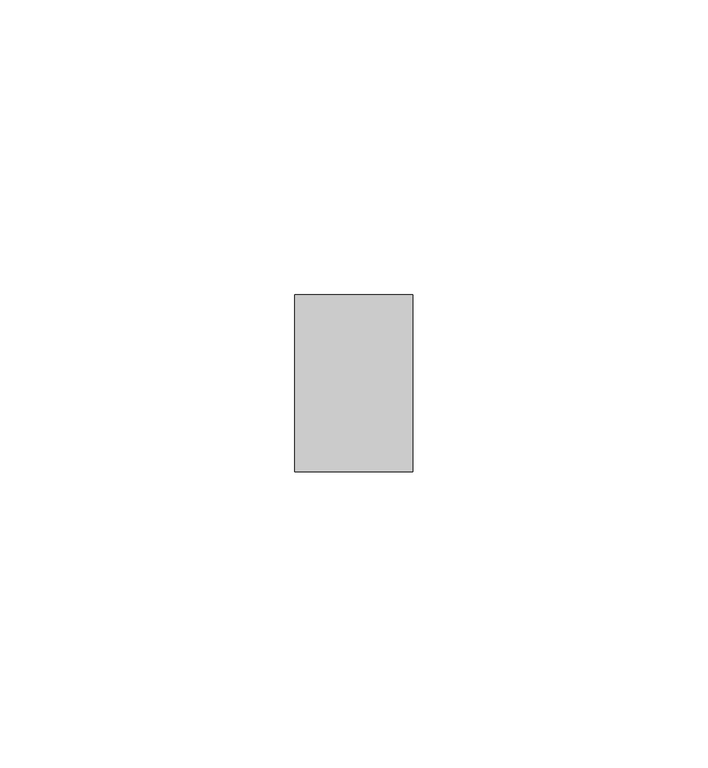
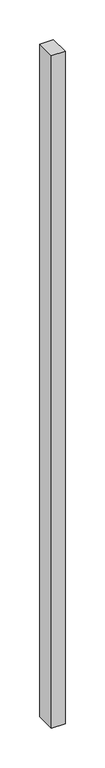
"""IFC4 building model written with IfcOpenShell, lengths in millimetres: member geometry, Прямоугольный импост : Квадрат 10 мм - Зазор между навесными плитами."""

from ifc_helpers import new_model, si_unit, frame, origin, place, context, project, spatial, polyline, outline, extrude, source, transform, mapped, element, save


def member_f17163b7(model_context):
    return source(origin(), model_context, "Body", "SweptSolid", [
        extrude(outline(polyline([(0.0, 15.0), (0.0, -15.0), (-20.0, -15.0), (-20.0, 15.0), (0.0, 15.0)])), frame((0.0, 0.0, -1036.1161582), z_axis=(0.0, 0.0, 1.0), x_axis=(1.0, 0.0, 0.0)), (0.0, 0.0, 1.0), 1036.1161582),
    ])


if __name__ == "__main__":
    model = new_model("IFC4")
    model_context = context("Model", 3, world=origin())
    ifc_project = project(units=[si_unit("LENGTHUNIT", "METRE", prefix="MILLI")], contexts=[model_context])
    site = spatial("IfcSite", under=ifc_project)
    building = spatial("IfcBuilding", under=site)
    placement = place(None, origin())
    member_shape = member_f17163b7(model_context)
    element("IfcMember", 1, ObjectType="Прямоугольный импост : Квадрат 10 мм - Зазор между навесными плитами", at=placement, inside=building, context=model_context, shape_type="MappedRepresentation", body=[
        mapped(member_shape, transform((0.0, 0.0, 0.0), x_axis=(1.0, 0.0, 0.0), y_axis=(0.0, 1.0, 0.0), z_axis=(0.0, 0.0, 1.0))),
    ])
    save(model, "model.ifc")
